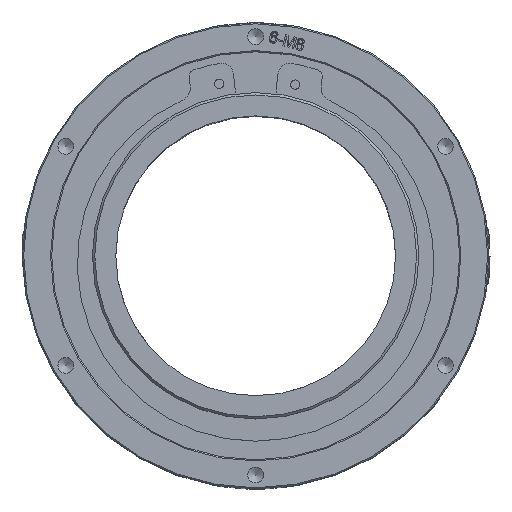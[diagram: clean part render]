
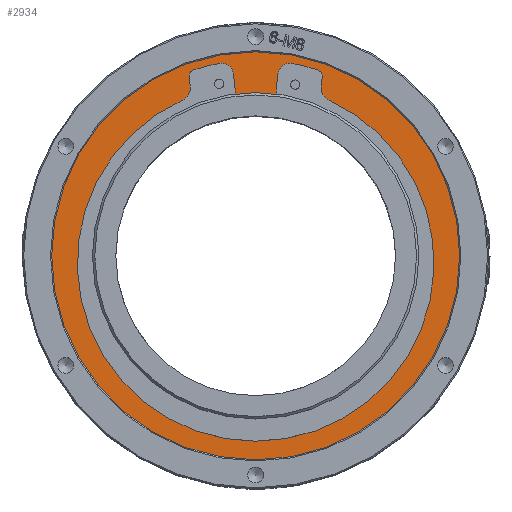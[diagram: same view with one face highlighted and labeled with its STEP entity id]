
A CAD part, top view. The second image highlights one B-rep face of the part: STEP entity #2934.
In plain terms, the highlighted planar face has unit normal (0, 0, 1).
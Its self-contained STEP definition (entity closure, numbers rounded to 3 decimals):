
#484=FACE_BOUND('',#8732,.T.);
#485=FACE_BOUND('',#8733,.T.);
#668=CIRCLE('',#30589,87.5);
#719=CIRCLE('',#30685,4.);
#720=CIRCLE('',#30688,5.);
#721=CIRCLE('',#30690,84.);
#722=CIRCLE('',#30692,3.);
#723=CIRCLE('',#30695,6.);
#724=CIRCLE('',#30697,76.5);
#725=CIRCLE('',#30699,6.);
#726=CIRCLE('',#30702,3.);
#727=CIRCLE('',#30704,84.);
#728=CIRCLE('',#30706,5.);
#729=CIRCLE('',#30709,4.);
#730=CIRCLE('',#30711,68.);
#1251=PLANE('',#30713);
#1781=LINE('',#54847,#5511);
#1786=LINE('',#54863,#5516);
#1791=LINE('',#54879,#5521);
#1796=LINE('',#54895,#5526);
#2934=ADVANCED_FACE('',(#484,#485),#1251,.T.);
#5511=VECTOR('',#33350,1.);
#5516=VECTOR('',#33369,1.);
#5521=VECTOR('',#33388,1.);
#5526=VECTOR('',#33407,1.);
#8732=EDGE_LOOP('',(#14580,#14581,#14582,#14583,#14584,#14585,#14586,#14587,
#14588,#14589,#14590,#14591,#14592,#14593,#14594,#14595));
#8733=EDGE_LOOP('',(#14596));
#14580=ORIENTED_EDGE('',*,*,#24230,.F.);
#14581=ORIENTED_EDGE('',*,*,#24228,.T.);
#14582=ORIENTED_EDGE('',*,*,#24226,.T.);
#14583=ORIENTED_EDGE('',*,*,#24224,.T.);
#14584=ORIENTED_EDGE('',*,*,#24222,.T.);
#14585=ORIENTED_EDGE('',*,*,#24220,.T.);
#14586=ORIENTED_EDGE('',*,*,#24218,.T.);
#14587=ORIENTED_EDGE('',*,*,#24216,.T.);
#14588=ORIENTED_EDGE('',*,*,#24214,.T.);
#14589=ORIENTED_EDGE('',*,*,#24212,.T.);
#14590=ORIENTED_EDGE('',*,*,#24210,.T.);
#14591=ORIENTED_EDGE('',*,*,#24208,.T.);
#14592=ORIENTED_EDGE('',*,*,#24206,.T.);
#14593=ORIENTED_EDGE('',*,*,#24204,.T.);
#14594=ORIENTED_EDGE('',*,*,#24202,.T.);
#14595=ORIENTED_EDGE('',*,*,#24199,.T.);
#14596=ORIENTED_EDGE('',*,*,#23992,.F.);
#20074=VERTEX_POINT('',#53981);
#20283=VERTEX_POINT('',#54842);
#20284=VERTEX_POINT('',#54843);
#20285=VERTEX_POINT('',#54848);
#20286=VERTEX_POINT('',#54852);
#20287=VERTEX_POINT('',#54856);
#20288=VERTEX_POINT('',#54860);
#20289=VERTEX_POINT('',#54864);
#20290=VERTEX_POINT('',#54868);
#20291=VERTEX_POINT('',#54872);
#20292=VERTEX_POINT('',#54876);
#20293=VERTEX_POINT('',#54880);
#20294=VERTEX_POINT('',#54884);
#20295=VERTEX_POINT('',#54888);
#20296=VERTEX_POINT('',#54892);
#20297=VERTEX_POINT('',#54896);
#20298=VERTEX_POINT('',#54900);
#23992=EDGE_CURVE('',#20074,#20074,#668,.T.);
#24199=EDGE_CURVE('',#20283,#20284,#719,.T.);
#24202=EDGE_CURVE('',#20285,#20283,#1781,.T.);
#24204=EDGE_CURVE('',#20286,#20285,#720,.T.);
#24206=EDGE_CURVE('',#20287,#20286,#721,.T.);
#24208=EDGE_CURVE('',#20288,#20287,#722,.T.);
#24210=EDGE_CURVE('',#20289,#20288,#1786,.T.);
#24212=EDGE_CURVE('',#20290,#20289,#723,.T.);
#24214=EDGE_CURVE('',#20291,#20290,#724,.T.);
#24216=EDGE_CURVE('',#20292,#20291,#725,.T.);
#24218=EDGE_CURVE('',#20293,#20292,#1791,.T.);
#24220=EDGE_CURVE('',#20294,#20293,#726,.T.);
#24222=EDGE_CURVE('',#20295,#20294,#727,.T.);
#24224=EDGE_CURVE('',#20296,#20295,#728,.T.);
#24226=EDGE_CURVE('',#20297,#20296,#1796,.T.);
#24228=EDGE_CURVE('',#20298,#20297,#729,.T.);
#24230=EDGE_CURVE('',#20298,#20284,#730,.T.);
#30589=AXIS2_PLACEMENT_3D('',#53980,#33086,#33087);
#30685=AXIS2_PLACEMENT_3D('',#54841,#33344,#33345);
#30688=AXIS2_PLACEMENT_3D('',#54851,#33354,#33355);
#30690=AXIS2_PLACEMENT_3D('',#54855,#33359,#33360);
#30692=AXIS2_PLACEMENT_3D('',#54859,#33364,#33365);
#30695=AXIS2_PLACEMENT_3D('',#54867,#33373,#33374);
#30697=AXIS2_PLACEMENT_3D('',#54871,#33378,#33379);
#30699=AXIS2_PLACEMENT_3D('',#54875,#33383,#33384);
#30702=AXIS2_PLACEMENT_3D('',#54883,#33392,#33393);
#30704=AXIS2_PLACEMENT_3D('',#54887,#33397,#33398);
#30706=AXIS2_PLACEMENT_3D('',#54891,#33402,#33403);
#30709=AXIS2_PLACEMENT_3D('',#54899,#33411,#33412);
#30711=AXIS2_PLACEMENT_3D('',#54903,#33416,#33417);
#30713=AXIS2_PLACEMENT_3D('',#54905,#33420,#33421);
#33086=DIRECTION('',(0.,0.,-1.));
#33087=DIRECTION('',(1.,0.,0.));
#33344=DIRECTION('',(0.,0.,-1.));
#33345=DIRECTION('',(1.,0.,0.));
#33350=DIRECTION('',(0.122,-0.993,0.));
#33354=DIRECTION('',(0.,0.,-1.));
#33355=DIRECTION('',(1.,0.,0.));
#33359=DIRECTION('',(0.,0.,-1.));
#33360=DIRECTION('',(1.,0.,0.));
#33364=DIRECTION('',(0.,0.,-1.));
#33365=DIRECTION('',(1.,0.,0.));
#33369=DIRECTION('',(-0.122,0.993,0.));
#33373=DIRECTION('',(0.,0.,1.));
#33374=DIRECTION('',(1.,0.,0.));
#33378=DIRECTION('',(0.,0.,-1.));
#33379=DIRECTION('',(1.,0.,0.));
#33383=DIRECTION('',(0.,0.,1.));
#33384=DIRECTION('',(1.,0.,0.));
#33388=DIRECTION('',(-0.122,-0.993,0.));
#33392=DIRECTION('',(0.,0.,-1.));
#33393=DIRECTION('',(1.,0.,0.));
#33397=DIRECTION('',(0.,0.,-1.));
#33398=DIRECTION('',(1.,0.,0.));
#33402=DIRECTION('',(0.,0.,-1.));
#33403=DIRECTION('',(1.,0.,0.));
#33407=DIRECTION('',(0.122,0.993,0.));
#33411=DIRECTION('',(0.,0.,-1.));
#33412=DIRECTION('',(1.,0.,0.));
#33416=DIRECTION('',(0.,0.,1.));
#33417=DIRECTION('',(1.,0.,0.));
#33420=DIRECTION('',(0.,0.,1.));
#33421=DIRECTION('',(1.,0.,0.));
#53980=CARTESIAN_POINT('',(0.,0.,114.));
#53981=CARTESIAN_POINT('',(87.5,0.,114.));
#54841=CARTESIAN_POINT('',(-12.731,70.865,114.));
#54842=CARTESIAN_POINT('',(-8.761,71.353,114.));
#54843=CARTESIAN_POINT('',(-12.024,66.929,114.));
#54847=CARTESIAN_POINT('',(-9.608,78.254,114.));
#54848=CARTESIAN_POINT('',(-9.608,78.254,114.));
#54851=CARTESIAN_POINT('',(-14.571,77.645,114.));
#54852=CARTESIAN_POINT('',(-15.493,82.559,114.));
#54855=CARTESIAN_POINT('',(0.,0.,114.));
#54856=CARTESIAN_POINT('',(-26.504,79.709,114.));
#54859=CARTESIAN_POINT('',(-25.558,76.862,114.));
#54860=CARTESIAN_POINT('',(-28.535,76.497,114.));
#54863=CARTESIAN_POINT('',(-28.091,72.878,114.));
#54864=CARTESIAN_POINT('',(-28.091,72.878,114.));
#54867=CARTESIAN_POINT('',(-34.046,72.147,114.));
#54868=CARTESIAN_POINT('',(-31.57,66.682,114.));
#54871=CARTESIAN_POINT('',(0.,-3.,114.));
#54872=CARTESIAN_POINT('',(31.57,66.682,114.));
#54875=CARTESIAN_POINT('',(34.046,72.147,114.));
#54876=CARTESIAN_POINT('',(28.091,72.878,114.));
#54879=CARTESIAN_POINT('',(28.535,76.497,114.));
#54880=CARTESIAN_POINT('',(28.535,76.497,114.));
#54883=CARTESIAN_POINT('',(25.558,76.862,114.));
#54884=CARTESIAN_POINT('',(26.504,79.709,114.));
#54887=CARTESIAN_POINT('',(0.,0.,114.));
#54888=CARTESIAN_POINT('',(15.493,82.559,114.));
#54891=CARTESIAN_POINT('',(14.571,77.645,114.));
#54892=CARTESIAN_POINT('',(9.608,78.254,114.));
#54895=CARTESIAN_POINT('',(8.761,71.353,114.));
#54896=CARTESIAN_POINT('',(8.761,71.353,114.));
#54899=CARTESIAN_POINT('',(12.731,70.865,114.));
#54900=CARTESIAN_POINT('',(12.024,66.929,114.));
#54903=CARTESIAN_POINT('',(0.,0.,114.));
#54905=CARTESIAN_POINT('',(0.,0.,114.));
